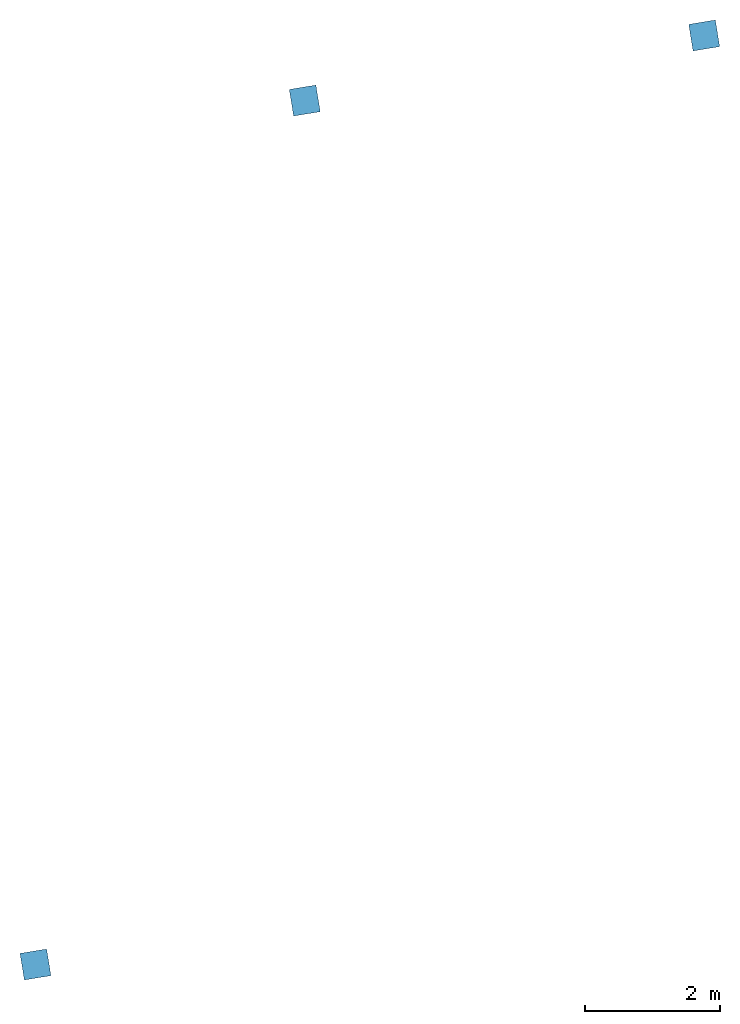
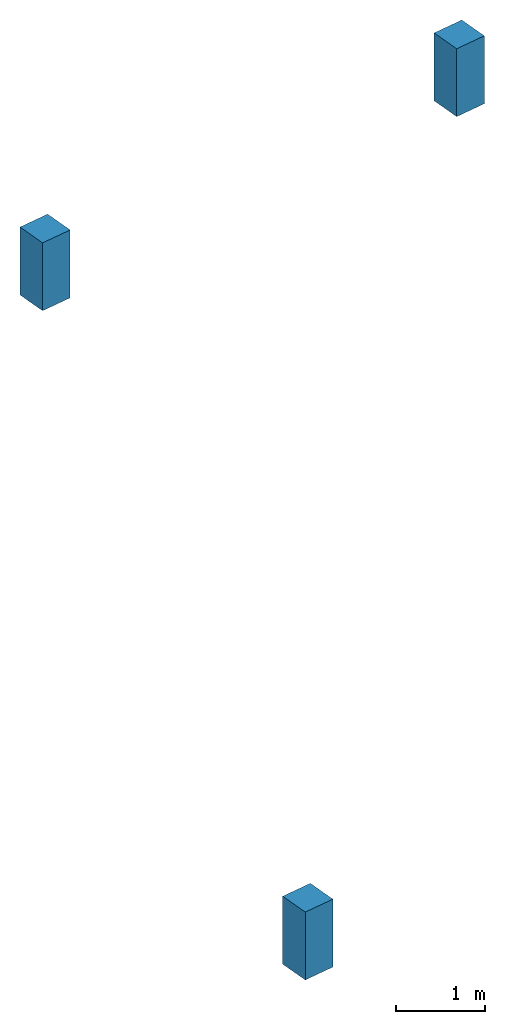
# One storey: 3 columns.
"""IFC2X3 building model written with IfcOpenShell, lengths in millimetres."""

from ifc_helpers import new_model, entity, si_unit, converted_unit, derived_unit, direction, frame, origin, origin_with_axes, place, context, subcontext, project, spatial, faceted_brep, type_object, element, save


model = new_model("IFC2X3")

# Units and contexts
model_context = context("Model", 3, precision=0.01, world=origin(), true_north=direction((6.12323399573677e-17, 1.0)))
plan_context = context("Plan", 3, precision=1e-05, world=origin_with_axes())
body_context = subcontext(model_context, "Body", "Model", "MODEL_VIEW")
ifc_project = project(units=[converted_unit("PLANEANGLEUNIT", "DEGREE", entity("IfcPositiveLengthMeasure", 0.0174532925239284), si_unit("PLANEANGLEUNIT", "RADIAN"), dimensions=[0, 0, 0, 0, 0, 0, 0]), si_unit("AREAUNIT", "SQUARE_METRE"), si_unit("LENGTHUNIT", "METRE", prefix="MILLI"), si_unit("MASSUNIT", "GRAM", prefix="KILO"), si_unit("POWERUNIT", "WATT"), si_unit("PRESSUREUNIT", "PASCAL", prefix="KILO"), si_unit("FORCEUNIT", "NEWTON", prefix="KILO"), si_unit("ELECTRICVOLTAGEUNIT", "VOLT"), si_unit("ELECTRICCURRENTUNIT", "AMPERE"), si_unit("THERMODYNAMICTEMPERATUREUNIT", "DEGREE_CELSIUS"), si_unit("TIMEUNIT", "SECOND"), si_unit("VOLUMEUNIT", "CUBIC_METRE"), derived_unit("LINEARVELOCITYUNIT", [(si_unit("LENGTHUNIT", "METRE"), 1), (si_unit("TIMEUNIT", "SECOND"), -1)]), derived_unit("VOLUMETRICFLOWRATEUNIT", [(si_unit("VOLUMEUNIT", "CUBIC_METRE"), 1), (si_unit("TIMEUNIT", "SECOND"), -1)]), derived_unit("THERMALTRANSMITTANCEUNIT", [(si_unit("POWERUNIT", "WATT"), 1), (si_unit("THERMODYNAMICTEMPERATUREUNIT", "KELVIN"), -1), (si_unit("AREAUNIT", "SQUARE_METRE"), -1)]), derived_unit("SOUNDPRESSUREUNIT", [(si_unit("PRESSUREUNIT", "PASCAL"), 1)])], contexts=[model_context, plan_context])

# Site, building, storey
site_placement = place(None, frame((5.09380697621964e-08, 5.80416781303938e-08, 0.0), z_axis=(0.0, 0.0, 1.0), x_axis=(-0.160806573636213, 0.986985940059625, 0.0)))
site = spatial("IfcSite", under=ifc_project, at=site_placement, Name="Default", CompositionType="ELEMENT")
building_placement = place(site_placement, frame((0.0, 0.0, 0.0), z_axis=(0.0, 0.0, 1.0), x_axis=(1.0, -2.77555756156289e-17, 0.0)))
building = spatial("IfcBuilding", under=site, at=building_placement, CompositionType="ELEMENT")
storey_placement = place(building_placement, frame((0.0, 0.0, 47800.0), z_axis=(0.0, 0.0, 1.0), x_axis=(1.0, -2.77555756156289e-17, 0.0)))
storey = spatial("IfcBuildingStorey", under=building, at=storey_placement, Name="U01-Nivå B+3,1m", CompositionType="ELEMENT", Elevation=47800.0)

# Columns
column_type = type_object("IfcColumnType", Name="400*400", PredefinedType="NOTDEFINED")
column_1_placement = place(storey_placement, frame((0.0, 0.0, 0.0), z_axis=(0.0, 0.0, 1.0), x_axis=(1.0, -2.77555756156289e-17, 0.0)))
element("IfcColumn", 1, at=column_1_placement, inside=storey, type_object=column_type, Name="PLASSTØPTSØYLE", ObjectType="400*400", context=body_context, shape_type="Brep", body=[
    faceted_brep([(1004438.36984156, -348180.276417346, 7630.0), (1004838.36984157, -348180.274347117, 7629.99999895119), (1004838.3719118, -348580.27434712, 7629.99999895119), (1004438.37191179, -348580.27641735, 7630.0), (1004838.37190936, -348580.27434712, 6699.99999918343), (1004438.37190935, -348580.27641735, 6700.0), (1004438.36983912, -348180.276417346, 6700.0), (1004838.36983913, -348180.274347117, 6699.99999918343), (1004838.36983913, -348180.274347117, 6700.0), (1004838.37190936, -348580.27434712, 6700.0)], [[[0, 1, 2, 3]], [[4, 5, 3, 2]], [[6, 7, 1, 0]], [[5, 6, 0, 3]], [[7, 4, 2, 1]], [[8, 6, 5, 9]]], orient=[[False], [False], [False], [False], [False], [False]]),
])
column_2_placement = place(storey_placement, frame((0.0, 0.0, 0.0), z_axis=(0.0, 0.0, 1.0), x_axis=(1.0, -2.77555756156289e-17, 0.0)))
element("IfcColumn", 2, at=column_2_placement, inside=storey, type_object=column_type, Name="PLASSTØPTSØYLE", ObjectType="400*400", context=body_context, shape_type="Brep", body=[
    faceted_brep([(992438.343326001, -342180.329445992, 7630.0), (992838.343326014, -342180.327375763, 7629.99999895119), (992838.345396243, -342580.327375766, 7629.99999895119), (992438.34539623, -342580.329445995, 7630.0), (992838.345393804, -342580.327375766, 6699.99999918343), (992438.345393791, -342580.329445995, 6700.0), (992438.343323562, -342180.329445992, 6700.0), (992838.343323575, -342180.327375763, 6699.99999918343), (992838.343323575, -342180.327375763, 6700.0), (992838.345393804, -342580.327375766, 6700.0)], [[[0, 1, 2, 3]], [[4, 5, 3, 2]], [[6, 7, 1, 0]], [[5, 6, 0, 3]], [[7, 4, 2, 1]], [[8, 6, 5, 9]]], orient=[[False], [False], [False], [False], [False], [False]]),
])
column_3_placement = place(storey_placement, frame((0.0, 0.0, 0.0), z_axis=(0.0, 0.0, 1.0), x_axis=(1.0, -2.77555756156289e-17, 0.0)))
element("IfcColumn", 3, at=column_3_placement, inside=storey, type_object=column_type, Name="PLASSTØPTSØYLE", ObjectType="400*400", context=body_context, shape_type="Brep", body=[
    faceted_brep([(1004438.39635633, -354180.276417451, 7630.0), (1004838.39635635, -354180.274347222, 7629.99999895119), (1004838.39842658, -354580.274347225, 7629.99999895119), (1004438.39842656, -354580.276417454, 7630.0), (1004838.39842414, -354580.274347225, 6699.99999918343), (1004438.39842412, -354580.276417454, 6700.0), (1004438.3963539, -354180.276417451, 6700.0), (1004838.39635391, -354180.274347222, 6699.99999918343), (1004838.39635391, -354180.274347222, 6700.0), (1004838.39842414, -354580.274347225, 6700.0)], [[[0, 1, 2, 3]], [[4, 5, 3, 2]], [[6, 7, 1, 0]], [[5, 6, 0, 3]], [[7, 4, 2, 1]], [[8, 6, 5, 9]]], orient=[[False], [False], [False], [False], [False], [False]]),
])

save(model, "model.ifc")
